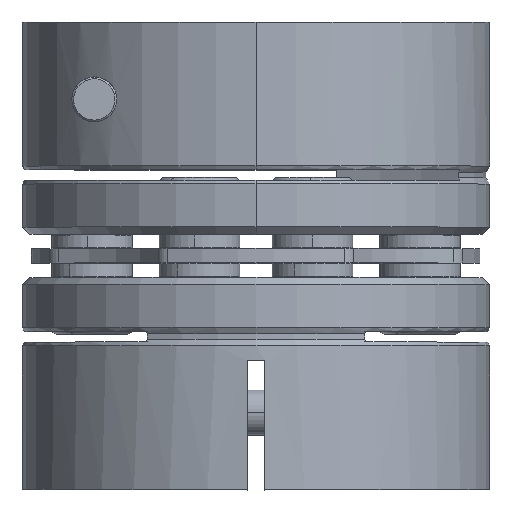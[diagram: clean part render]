
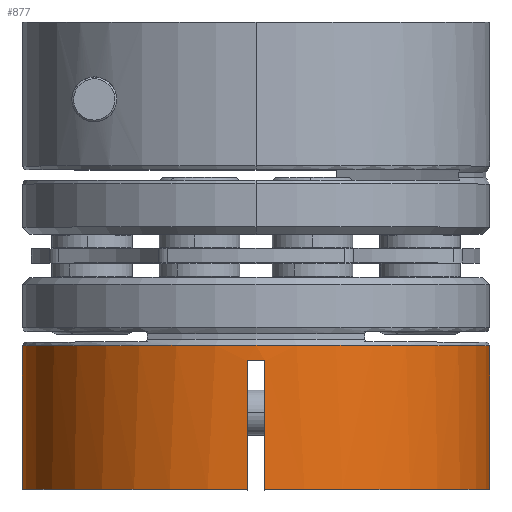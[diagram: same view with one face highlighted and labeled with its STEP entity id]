
A CAD part, top view. The second image highlights one B-rep face of the part: STEP entity #877.
In plain terms, the highlighted cylindrical face has radius 13 mm (diameter 26 mm), a partial arc.
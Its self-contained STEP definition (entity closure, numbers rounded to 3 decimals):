
#255 = VERTEX_POINT ( 'NONE', #2324 ) ;
#525 = CARTESIAN_POINT ( 'NONE',  ( 1.755, -18.289, 0. ) ) ;
#757 = VERTEX_POINT ( 'NONE', #14040 ) ;
#877 = ADVANCED_FACE ( 'NONE', ( #11601 ), #14388, .T. ) ;
#965 = DIRECTION ( 'NONE',  ( 0., 1., 0. ) ) ;
#1161 = CARTESIAN_POINT ( 'NONE',  ( 1.755, -26.289, 0. ) ) ;
#1366 = VERTEX_POINT ( 'NONE', #12459 ) ;
#1407 = CARTESIAN_POINT ( 'NONE',  ( 1.922, -19.16, 13.003 ) ) ;
#2324 = CARTESIAN_POINT ( 'NONE',  ( 1.255, -26.289, 12.99 ) ) ;
#2458 = CARTESIAN_POINT ( 'NONE',  ( -11.245, -56.94, 0. ) ) ;
#2837 = CARTESIAN_POINT ( 'NONE',  ( 1.755, -26.289, 0. ) ) ;
#2869 = DIRECTION ( 'NONE',  ( 0., -1., 0. ) ) ;
#2892 = VECTOR ( 'NONE', #9413, 1000. ) ;
#3475 = LINE ( 'NONE', #7473, #2892 ) ;
#3686 = VERTEX_POINT ( 'NONE', #22962 ) ;
#3756 = ORIENTED_EDGE ( 'NONE', *, *, #15714, .T. ) ;
#3828 = VERTEX_POINT ( 'NONE', #4009 ) ;
#4009 = CARTESIAN_POINT ( 'NONE',  ( 2.255, -19.154, 12.99 ) ) ;
#4354 = CARTESIAN_POINT ( 'NONE',  ( 1.755, -56.94, 0. ) ) ;
#4429 = CIRCLE ( 'NONE', #14333, 13. ) ;
#4688 = DIRECTION ( 'NONE',  ( 1., 0., 0. ) ) ;
#5135 = CARTESIAN_POINT ( 'NONE',  ( 1.255, -14.489, 12.99 ) ) ;
#5472 = DIRECTION ( 'NONE',  ( 0., 1., 0. ) ) ;
#6102 = ORIENTED_EDGE ( 'NONE', *, *, #11217, .F. ) ;
#6724 = CARTESIAN_POINT ( 'NONE',  ( 2.255, -19.154, 12.99 ) ) ;
#6847 = CARTESIAN_POINT ( 'NONE',  ( 14.755, -18.289, 0. ) ) ;
#7473 = CARTESIAN_POINT ( 'NONE',  ( 2.255, -14.489, 12.99 ) ) ;
#8122 = VERTEX_POINT ( 'NONE', #6847 ) ;
#9231 = B_SPLINE_CURVE_WITH_KNOTS ( 'NONE', 3,
 ( #12076, #17522, #1407, #6724 ),
 .UNSPECIFIED., .F., .F.,
 ( 4, 4 ),
 ( 0., 0.001 ),
 .UNSPECIFIED. ) ;
#9413 = DIRECTION ( 'NONE',  ( 0., -1., 0. ) ) ;
#9435 = VECTOR ( 'NONE', #5472, 1000. ) ;
#10359 = EDGE_CURVE ( 'NONE', #1366, #3686, #15436, .T. ) ;
#10685 = LINE ( 'NONE', #2458, #15390 ) ;
#10919 = ORIENTED_EDGE ( 'NONE', *, *, #22840, .F. ) ;
#11114 = DIRECTION ( 'NONE',  ( 0., 1., 0. ) ) ;
#11217 = EDGE_CURVE ( 'NONE', #757, #22203, #10685, .T. ) ;
#11265 = CARTESIAN_POINT ( 'NONE',  ( -11.245, -18.289, 0. ) ) ;
#11479 = VERTEX_POINT ( 'NONE', #21099 ) ;
#11601 = FACE_OUTER_BOUND ( 'NONE', #14814, .T. ) ;
#11887 = EDGE_CURVE ( 'NONE', #11479, #255, #18971, .T. ) ;
#11964 = DIRECTION ( 'NONE',  ( 0., -1., 0. ) ) ;
#12076 = CARTESIAN_POINT ( 'NONE',  ( 1.255, -19.154, 12.99 ) ) ;
#12459 = CARTESIAN_POINT ( 'NONE',  ( 14.755, -26.289, 0. ) ) ;
#12611 = VECTOR ( 'NONE', #11964, 1000. ) ;
#12934 = DIRECTION ( 'NONE',  ( 0., 1., 0. ) ) ;
#13137 = ORIENTED_EDGE ( 'NONE', *, *, #19286, .T. ) ;
#13440 = DIRECTION ( 'NONE',  ( -1., 0., 0. ) ) ;
#14040 = CARTESIAN_POINT ( 'NONE',  ( -11.245, -26.289, 0. ) ) ;
#14333 = AXIS2_PLACEMENT_3D ( 'NONE', #525, #12934, #21843 ) ;
#14388 = CYLINDRICAL_SURFACE ( 'NONE', #17850, 13. ) ;
#14455 = ORIENTED_EDGE ( 'NONE', *, *, #10359, .F. ) ;
#14757 = ORIENTED_EDGE ( 'NONE', *, *, #11887, .F. ) ;
#14814 = EDGE_LOOP ( 'NONE', ( #14455, #21240, #16141, #6102, #10919, #14757, #13137, #3756 ) ) ;
#15098 = CIRCLE ( 'NONE', #15142, 13. ) ;
#15142 = AXIS2_PLACEMENT_3D ( 'NONE', #2837, #20654, #20730 ) ;
#15390 = VECTOR ( 'NONE', #11114, 1000. ) ;
#15436 = CIRCLE ( 'NONE', #15781, 13. ) ;
#15714 = EDGE_CURVE ( 'NONE', #3828, #3686, #3475, .T. ) ;
#15781 = AXIS2_PLACEMENT_3D ( 'NONE', #1161, #2869, #4688 ) ;
#16141 = ORIENTED_EDGE ( 'NONE', *, *, #19494, .F. ) ;
#17522 = CARTESIAN_POINT ( 'NONE',  ( 1.589, -19.16, 13.003 ) ) ;
#17850 = AXIS2_PLACEMENT_3D ( 'NONE', #4354, #965, #13440 ) ;
#18971 = LINE ( 'NONE', #5135, #12611 ) ;
#19286 = EDGE_CURVE ( 'NONE', #11479, #3828, #9231, .T. ) ;
#19494 = EDGE_CURVE ( 'NONE', #22203, #8122, #4429, .T. ) ;
#19905 = EDGE_CURVE ( 'NONE', #1366, #8122, #22208, .T. ) ;
#20654 = DIRECTION ( 'NONE',  ( 0., -1., 0. ) ) ;
#20730 = DIRECTION ( 'NONE',  ( 1., 0., 0. ) ) ;
#21099 = CARTESIAN_POINT ( 'NONE',  ( 1.255, -19.154, 12.99 ) ) ;
#21158 = CARTESIAN_POINT ( 'NONE',  ( 14.755, -56.94, 0. ) ) ;
#21240 = ORIENTED_EDGE ( 'NONE', *, *, #19905, .T. ) ;
#21843 = DIRECTION ( 'NONE',  ( -1., 0., 0. ) ) ;
#22203 = VERTEX_POINT ( 'NONE', #11265 ) ;
#22208 = LINE ( 'NONE', #21158, #9435 ) ;
#22840 = EDGE_CURVE ( 'NONE', #255, #757, #15098, .T. ) ;
#22962 = CARTESIAN_POINT ( 'NONE',  ( 2.255, -26.289, 12.99 ) ) ;
